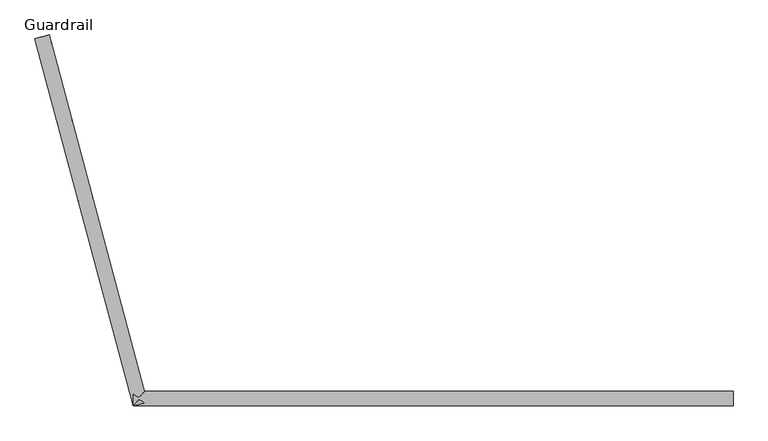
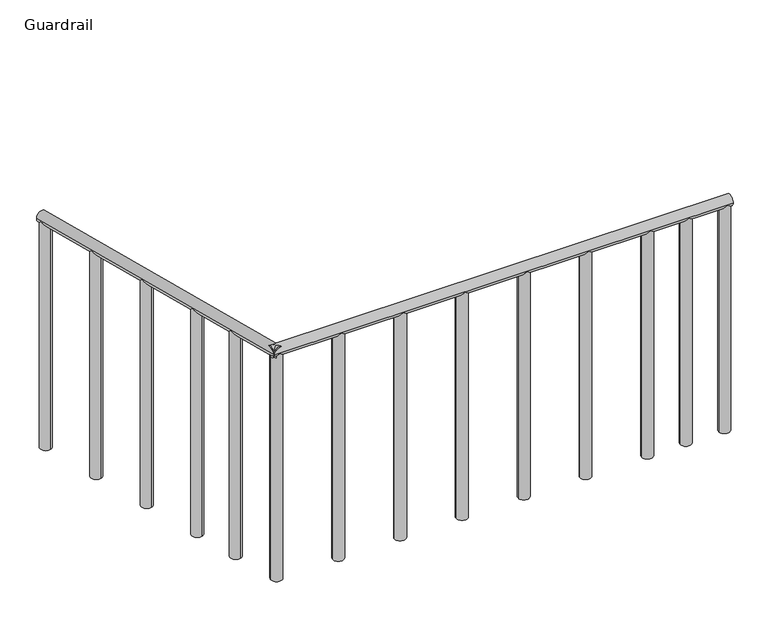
"""IFC4 building model written with IfcOpenShell, lengths in millimetres: railing geometry, Guardrail."""

from ifc_helpers import new_model, si_unit, frame, origin, place, context, project, spatial, circle_curve, ellipse_curve, source, transform, mapped, element, save
from ifc_brep_helpers import plane_surface, cylinder_surface, advanced_brep


def guardrail_720206c2(model_context):
    return source(origin(), model_context, "Body", "AdvancedBrep", [
        advanced_brep(
        [(13474.0934545, -4615.1615122, 8407.4), (13474.0934545, -4665.9615122, 8407.4), (15549.0835198, -4615.1615122, 8407.4), (15549.0835198, -4665.9615122, 8407.4)],
        [
            (0, 1, circle_curve(frame((13474.0934545, -4640.5615122, 8407.4), z_axis=(-1.0, 0.0, 0.0), x_axis=(0.0, 1.0, 0.0)), 25.4)),
            (1, 0, circle_curve(frame((13474.0934545, -4640.5615122, 8407.4), z_axis=(-1.0, 0.0, 0.0), x_axis=(0.0, 1.0, 0.0)), 25.4)),
            (2, 3, circle_curve(frame((15549.0835198, -4640.5615122, 8407.4), z_axis=(1.0, 0.0, 0.0), x_axis=(0.0, 1.0, 0.0)), 25.4)),
            (3, 2, circle_curve(frame((15549.0835198, -4640.5615122, 8407.4), z_axis=(1.0, 0.0, 0.0), x_axis=(0.0, 1.0, 0.0)), 25.4)),
            (0, 2),
            (3, 1),
        ],
        [
            plane_surface(frame((13474.0934545, -4615.1615122, 8382.0), z_axis=(-1.0, 0.0, 0.0), x_axis=(0.0, -1.0, 0.0))),
            plane_surface(frame((15549.0835198, -4615.1615122, 8382.0), z_axis=(1.0, 0.0, 0.0), x_axis=(0.0, 1.0, 0.0))),
            cylinder_surface(frame((15549.0835198, -4640.5615122, 8407.4), z_axis=(-1.0, 0.0, 0.0), x_axis=(0.0, 1.0, 0.0)), 25.4),
        ],
        [
            (0, [[1, 2]]),
            (1, [[3, 4]]),
            (2, [[-1, 5, -4, 6]]),
            (2, [[-2, -6, -3, -5]]),
        ],
    ),
        advanced_brep(
        [(15498.2835198, -4640.5615122, 7315.2), (15549.0835198, -4640.5615122, 7315.2), (15549.0835198, -4640.5615122, 8385.4029547), (15545.680565, -4653.2615122, 8385.4029547), (15501.6864745, -4653.2615122, 8385.4029547), (15498.2835198, -4640.5615122, 8385.4029547), (15501.6864745, -4627.8615122, 8385.4029547), (15545.680565, -4627.8615122, 8385.4029547)],
        [
            (0, 1, circle_curve(frame((15523.6835198, -4640.5615122, 7315.2), z_axis=(0.0, 0.0, -1.0), x_axis=(-1.0, 0.0, 0.0)), 25.4)),
            (1, 0, circle_curve(frame((15523.6835198, -4640.5615122, 7315.2), z_axis=(0.0, 0.0, -1.0), x_axis=(-1.0, 0.0, 0.0)), 25.4)),
            (2, 3, circle_curve(frame((15523.6835198, -4640.5615122, 8385.4029547), z_axis=(0.0, 0.0, -1.0), x_axis=(-1.0, 0.0, 0.0)), 25.4)),
            (3, 4, ellipse_curve(frame((15523.6835198, -4640.5615122, 8363.4059095), z_axis=(0.0, -0.8660254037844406, -0.4999999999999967), x_axis=(0.0, -0.4999999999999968, 0.8660254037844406)), 50.8, 25.4)),
            (4, 5, circle_curve(frame((15523.6835198, -4640.5615122, 8385.4029547), z_axis=(0.0, 0.0, -1.0), x_axis=(-1.0, 0.0, 0.0)), 25.4)),
            (5, 0),
            (1, 2),
            (5, 6, circle_curve(frame((15523.6835198, -4640.5615122, 8385.4029547), z_axis=(0.0, 0.0, -1.0), x_axis=(-1.0, 0.0, 0.0)), 25.4)),
            (6, 7, ellipse_curve(frame((15523.6835198, -4640.5615122, 8363.4059095), z_axis=(0.0, 0.8660254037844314, -0.5000000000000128), x_axis=(0.0, 0.5000000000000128, 0.8660254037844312)), 50.8, 25.4)),
            (7, 2, circle_curve(frame((15523.6835198, -4640.5615122, 8385.4029547), z_axis=(0.0, 0.0, -1.0), x_axis=(-1.0, 0.0, 0.0)), 25.4)),
            (4, 3),
            (7, 6),
        ],
        [
            plane_surface(frame((15498.2835198, -4640.5615122, 7315.2), z_axis=(0.0, 0.0, -1.0), x_axis=(0.0, 1.0, 0.0))),
            cylinder_surface(frame((15523.6835198, -4640.5615122, 7315.2), z_axis=(0.0, 0.0, 1.0), x_axis=(-1.0, 0.0, 0.0)), 25.4),
            plane_surface(frame((18597.0835198, -4640.5615122, 8385.4029547), z_axis=(0.0, 0.0, 1.0), x_axis=(0.0, 1.0, 0.0))),
            plane_surface(frame((18597.0835198, -4659.6115122, 8396.4014774), z_axis=(0.0, 0.8660254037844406, 0.4999999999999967), x_axis=(0.0, 0.4999999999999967, -0.8660254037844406))),
            plane_surface(frame((18597.0835198, -4621.5115122, 8396.4014774), z_axis=(0.0, -0.8660254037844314, 0.5000000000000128), x_axis=(0.0, 0.5000000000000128, 0.8660254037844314))),
        ],
        [
            (0, [[1, 2]]),
            (1, [[3, 4, 5, 6, -2, 7]]),
            (1, [[8, 9, 10, -7, -1, -6]]),
            (2, [[-5, 11, -3, -10, 12, -8]]),
            (3, [[-4, -11]]),
            (4, [[-9, -12]]),
        ],
    ),
        advanced_brep(
        [(15324.3884872, -4640.5615122, 7315.2), (15375.1884872, -4640.5615122, 7315.2), (15375.1884872, -4640.5615122, 8385.4029547), (15371.7855324, -4653.2615122, 8385.4029547), (15327.7914419, -4653.2615122, 8385.4029547), (15324.3884872, -4640.5615122, 8385.4029547), (15327.7914419, -4627.8615122, 8385.4029547), (15371.7855324, -4627.8615122, 8385.4029547)],
        [
            (0, 1, circle_curve(frame((15349.7884872, -4640.5615122, 7315.2), z_axis=(0.0, 0.0, -1.0), x_axis=(-1.0, 0.0, 0.0)), 25.4)),
            (1, 0, circle_curve(frame((15349.7884872, -4640.5615122, 7315.2), z_axis=(0.0, 0.0, -1.0), x_axis=(-1.0, 0.0, 0.0)), 25.4)),
            (2, 3, circle_curve(frame((15349.7884872, -4640.5615122, 8385.4029547), z_axis=(0.0, 0.0, -1.0), x_axis=(-1.0, 0.0, 0.0)), 25.4)),
            (3, 4, ellipse_curve(frame((15349.7884872, -4640.5615122, 8363.4059095), z_axis=(0.0, -0.8660254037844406, -0.4999999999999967), x_axis=(0.0, -0.4999999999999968, 0.8660254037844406)), 50.8, 25.4)),
            (4, 5, circle_curve(frame((15349.7884872, -4640.5615122, 8385.4029547), z_axis=(0.0, 0.0, -1.0), x_axis=(-1.0, 0.0, 0.0)), 25.4)),
            (5, 0),
            (1, 2),
            (5, 6, circle_curve(frame((15349.7884872, -4640.5615122, 8385.4029547), z_axis=(0.0, 0.0, -1.0), x_axis=(-1.0, 0.0, 0.0)), 25.4)),
            (6, 7, ellipse_curve(frame((15349.7884872, -4640.5615122, 8363.4059095), z_axis=(0.0, 0.8660254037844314, -0.5000000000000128), x_axis=(0.0, 0.5000000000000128, 0.8660254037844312)), 50.8, 25.4)),
            (7, 2, circle_curve(frame((15349.7884872, -4640.5615122, 8385.4029547), z_axis=(0.0, 0.0, -1.0), x_axis=(-1.0, 0.0, 0.0)), 25.4)),
            (4, 3),
            (7, 6),
        ],
        [
            plane_surface(frame((15324.3884872, -4640.5615122, 7315.2), z_axis=(0.0, 0.0, -1.0), x_axis=(0.0, 1.0, 0.0))),
            cylinder_surface(frame((15349.7884872, -4640.5615122, 7315.2), z_axis=(0.0, 0.0, 1.0), x_axis=(-1.0, 0.0, 0.0)), 25.4),
            plane_surface(frame((18597.0835198, -4640.5615122, 8385.4029547), z_axis=(0.0, 0.0, 1.0), x_axis=(0.0, 1.0, 0.0))),
            plane_surface(frame((18597.0835198, -4659.6115122, 8396.4014774), z_axis=(0.0, 0.8660254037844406, 0.4999999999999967), x_axis=(0.0, 0.4999999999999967, -0.8660254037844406))),
            plane_surface(frame((18597.0835198, -4621.5115122, 8396.4014774), z_axis=(0.0, -0.8660254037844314, 0.5000000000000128), x_axis=(0.0, 0.5000000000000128, 0.8660254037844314))),
        ],
        [
            (0, [[1, 2]]),
            (1, [[3, 4, 5, 6, -2, 7]]),
            (1, [[8, 9, 10, -7, -1, -6]]),
            (2, [[-5, 11, -3, -10, 12, -8]]),
            (3, [[-4, -11]]),
            (4, [[-9, -12]]),
        ],
    ),
        advanced_brep(
        [(15150.4934545, -4640.5615122, 7315.2), (15201.2934545, -4640.5615122, 7315.2), (15201.2934545, -4640.5615122, 8385.4029547), (15197.8904998, -4653.2615122, 8385.4029547), (15153.8964093, -4653.2615122, 8385.4029547), (15150.4934545, -4640.5615122, 8385.4029547), (15153.8964093, -4627.8615122, 8385.4029547), (15197.8904998, -4627.8615122, 8385.4029547)],
        [
            (0, 1, circle_curve(frame((15175.8934545, -4640.5615122, 7315.2), z_axis=(0.0, 0.0, -1.0), x_axis=(-1.0, 0.0, 0.0)), 25.4)),
            (1, 0, circle_curve(frame((15175.8934545, -4640.5615122, 7315.2), z_axis=(0.0, 0.0, -1.0), x_axis=(-1.0, 0.0, 0.0)), 25.4)),
            (2, 3, circle_curve(frame((15175.8934545, -4640.5615122, 8385.4029547), z_axis=(0.0, 0.0, -1.0), x_axis=(-1.0, 0.0, 0.0)), 25.4)),
            (3, 4, ellipse_curve(frame((15175.8934545, -4640.5615122, 8363.4059095), z_axis=(0.0, -0.8660254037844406, -0.4999999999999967), x_axis=(0.0, -0.4999999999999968, 0.8660254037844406)), 50.8, 25.4)),
            (4, 5, circle_curve(frame((15175.8934545, -4640.5615122, 8385.4029547), z_axis=(0.0, 0.0, -1.0), x_axis=(-1.0, 0.0, 0.0)), 25.4)),
            (5, 0),
            (1, 2),
            (5, 6, circle_curve(frame((15175.8934545, -4640.5615122, 8385.4029547), z_axis=(0.0, 0.0, -1.0), x_axis=(-1.0, 0.0, 0.0)), 25.4)),
            (6, 7, ellipse_curve(frame((15175.8934545, -4640.5615122, 8363.4059095), z_axis=(0.0, 0.8660254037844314, -0.5000000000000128), x_axis=(0.0, 0.5000000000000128, 0.8660254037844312)), 50.8, 25.4)),
            (7, 2, circle_curve(frame((15175.8934545, -4640.5615122, 8385.4029547), z_axis=(0.0, 0.0, -1.0), x_axis=(-1.0, 0.0, 0.0)), 25.4)),
            (4, 3),
            (7, 6),
        ],
        [
            plane_surface(frame((15150.4934545, -4640.5615122, 7315.2), z_axis=(0.0, 0.0, -1.0), x_axis=(0.0, 1.0, 0.0))),
            cylinder_surface(frame((15175.8934545, -4640.5615122, 7315.2), z_axis=(0.0, 0.0, 1.0), x_axis=(-1.0, 0.0, 0.0)), 25.4),
            plane_surface(frame((18597.0835198, -4640.5615122, 8385.4029547), z_axis=(0.0, 0.0, 1.0), x_axis=(0.0, 1.0, 0.0))),
            plane_surface(frame((18597.0835198, -4659.6115122, 8396.4014774), z_axis=(0.0, 0.8660254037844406, 0.4999999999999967), x_axis=(0.0, 0.4999999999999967, -0.8660254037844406))),
            plane_surface(frame((18597.0835198, -4621.5115122, 8396.4014774), z_axis=(0.0, -0.8660254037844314, 0.5000000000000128), x_axis=(0.0, 0.5000000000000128, 0.8660254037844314))),
        ],
        [
            (0, [[1, 2]]),
            (1, [[3, 4, 5, 6, -2, 7]]),
            (1, [[8, 9, 10, -7, -1, -6]]),
            (2, [[-5, 11, -3, -10, 12, -8]]),
            (3, [[-4, -11]]),
            (4, [[-9, -12]]),
        ],
    ),
        advanced_brep(
        [(14871.0934545, -4640.5615122, 7315.2), (14921.8934545, -4640.5615122, 7315.2), (14921.8934545, -4640.5615122, 8385.4029547), (14918.4904998, -4653.2615122, 8385.4029547), (14874.4964093, -4653.2615122, 8385.4029547), (14871.0934545, -4640.5615122, 8385.4029547), (14874.4964093, -4627.8615122, 8385.4029547), (14918.4904998, -4627.8615122, 8385.4029547)],
        [
            (0, 1, circle_curve(frame((14896.4934545, -4640.5615122, 7315.2), z_axis=(0.0, 0.0, -1.0), x_axis=(-1.0, 0.0, 0.0)), 25.4)),
            (1, 0, circle_curve(frame((14896.4934545, -4640.5615122, 7315.2), z_axis=(0.0, 0.0, -1.0), x_axis=(-1.0, 0.0, 0.0)), 25.4)),
            (2, 3, circle_curve(frame((14896.4934545, -4640.5615122, 8385.4029547), z_axis=(0.0, 0.0, -1.0), x_axis=(-1.0, 0.0, 0.0)), 25.4)),
            (3, 4, ellipse_curve(frame((14896.4934545, -4640.5615122, 8363.4059095), z_axis=(0.0, -0.8660254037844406, -0.4999999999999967), x_axis=(0.0, -0.4999999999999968, 0.8660254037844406)), 50.8, 25.4)),
            (4, 5, circle_curve(frame((14896.4934545, -4640.5615122, 8385.4029547), z_axis=(0.0, 0.0, -1.0), x_axis=(-1.0, 0.0, 0.0)), 25.4)),
            (5, 0),
            (1, 2),
            (5, 6, circle_curve(frame((14896.4934545, -4640.5615122, 8385.4029547), z_axis=(0.0, 0.0, -1.0), x_axis=(-1.0, 0.0, 0.0)), 25.4)),
            (6, 7, ellipse_curve(frame((14896.4934545, -4640.5615122, 8363.4059095), z_axis=(0.0, 0.8660254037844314, -0.5000000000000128), x_axis=(0.0, 0.5000000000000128, 0.8660254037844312)), 50.8, 25.4)),
            (7, 2, circle_curve(frame((14896.4934545, -4640.5615122, 8385.4029547), z_axis=(0.0, 0.0, -1.0), x_axis=(-1.0, 0.0, 0.0)), 25.4)),
            (4, 3),
            (7, 6),
        ],
        [
            plane_surface(frame((14871.0934545, -4640.5615122, 7315.2), z_axis=(0.0, 0.0, -1.0), x_axis=(0.0, 1.0, 0.0))),
            cylinder_surface(frame((14896.4934545, -4640.5615122, 7315.2), z_axis=(0.0, 0.0, 1.0), x_axis=(-1.0, 0.0, 0.0)), 25.4),
            plane_surface(frame((18597.0835198, -4640.5615122, 8385.4029547), z_axis=(0.0, 0.0, 1.0), x_axis=(0.0, 1.0, 0.0))),
            plane_surface(frame((18597.0835198, -4659.6115122, 8396.4014774), z_axis=(0.0, 0.8660254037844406, 0.4999999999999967), x_axis=(0.0, 0.4999999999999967, -0.8660254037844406))),
            plane_surface(frame((18597.0835198, -4621.5115122, 8396.4014774), z_axis=(0.0, -0.8660254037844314, 0.5000000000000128), x_axis=(0.0, 0.5000000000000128, 0.8660254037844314))),
        ],
        [
            (0, [[1, 2]]),
            (1, [[3, 4, 5, 6, -2, 7]]),
            (1, [[8, 9, 10, -7, -1, -6]]),
            (2, [[-5, 11, -3, -10, 12, -8]]),
            (3, [[-4, -11]]),
            (4, [[-9, -12]]),
        ],
    ),
        advanced_brep(
        [(14591.6934545, -4640.5615122, 7315.2), (14642.4934545, -4640.5615122, 7315.2), (14642.4934545, -4640.5615122, 8385.4029547), (14639.0904998, -4653.2615122, 8385.4029547), (14595.0964093, -4653.2615122, 8385.4029547), (14591.6934545, -4640.5615122, 8385.4029547), (14595.0964093, -4627.8615122, 8385.4029547), (14639.0904998, -4627.8615122, 8385.4029547)],
        [
            (0, 1, circle_curve(frame((14617.0934545, -4640.5615122, 7315.2), z_axis=(0.0, 0.0, -1.0), x_axis=(-1.0, 0.0, 0.0)), 25.4)),
            (1, 0, circle_curve(frame((14617.0934545, -4640.5615122, 7315.2), z_axis=(0.0, 0.0, -1.0), x_axis=(-1.0, 0.0, 0.0)), 25.4)),
            (2, 3, circle_curve(frame((14617.0934545, -4640.5615122, 8385.4029547), z_axis=(0.0, 0.0, -1.0), x_axis=(-1.0, 0.0, 0.0)), 25.4)),
            (3, 4, ellipse_curve(frame((14617.0934545, -4640.5615122, 8363.4059095), z_axis=(0.0, -0.8660254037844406, -0.4999999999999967), x_axis=(0.0, -0.4999999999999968, 0.8660254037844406)), 50.8, 25.4)),
            (4, 5, circle_curve(frame((14617.0934545, -4640.5615122, 8385.4029547), z_axis=(0.0, 0.0, -1.0), x_axis=(-1.0, 0.0, 0.0)), 25.4)),
            (5, 0),
            (1, 2),
            (5, 6, circle_curve(frame((14617.0934545, -4640.5615122, 8385.4029547), z_axis=(0.0, 0.0, -1.0), x_axis=(-1.0, 0.0, 0.0)), 25.4)),
            (6, 7, ellipse_curve(frame((14617.0934545, -4640.5615122, 8363.4059095), z_axis=(0.0, 0.8660254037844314, -0.5000000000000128), x_axis=(0.0, 0.5000000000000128, 0.8660254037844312)), 50.8, 25.4)),
            (7, 2, circle_curve(frame((14617.0934545, -4640.5615122, 8385.4029547), z_axis=(0.0, 0.0, -1.0), x_axis=(-1.0, 0.0, 0.0)), 25.4)),
            (4, 3),
            (7, 6),
        ],
        [
            plane_surface(frame((14591.6934545, -4640.5615122, 7315.2), z_axis=(0.0, 0.0, -1.0), x_axis=(0.0, 1.0, 0.0))),
            cylinder_surface(frame((14617.0934545, -4640.5615122, 7315.2), z_axis=(0.0, 0.0, 1.0), x_axis=(-1.0, 0.0, 0.0)), 25.4),
            plane_surface(frame((18597.0835198, -4640.5615122, 8385.4029547), z_axis=(0.0, 0.0, 1.0), x_axis=(0.0, 1.0, 0.0))),
            plane_surface(frame((18597.0835198, -4659.6115122, 8396.4014774), z_axis=(0.0, 0.8660254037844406, 0.4999999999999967), x_axis=(0.0, 0.4999999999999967, -0.8660254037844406))),
            plane_surface(frame((18597.0835198, -4621.5115122, 8396.4014774), z_axis=(0.0, -0.8660254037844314, 0.5000000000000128), x_axis=(0.0, 0.5000000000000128, 0.8660254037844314))),
        ],
        [
            (0, [[1, 2]]),
            (1, [[3, 4, 5, 6, -2, 7]]),
            (1, [[8, 9, 10, -7, -1, -6]]),
            (2, [[-5, 11, -3, -10, 12, -8]]),
            (3, [[-4, -11]]),
            (4, [[-9, -12]]),
        ],
    ),
        advanced_brep(
        [(14312.2934545, -4640.5615122, 7315.2), (14363.0934545, -4640.5615122, 7315.2), (14363.0934545, -4640.5615122, 8385.4029547), (14359.6904998, -4653.2615122, 8385.4029547), (14315.6964093, -4653.2615122, 8385.4029547), (14312.2934545, -4640.5615122, 8385.4029547), (14315.6964093, -4627.8615122, 8385.4029547), (14359.6904998, -4627.8615122, 8385.4029547)],
        [
            (0, 1, circle_curve(frame((14337.6934545, -4640.5615122, 7315.2), z_axis=(0.0, 0.0, -1.0), x_axis=(-1.0, 0.0, 0.0)), 25.4)),
            (1, 0, circle_curve(frame((14337.6934545, -4640.5615122, 7315.2), z_axis=(0.0, 0.0, -1.0), x_axis=(-1.0, 0.0, 0.0)), 25.4)),
            (2, 3, circle_curve(frame((14337.6934545, -4640.5615122, 8385.4029547), z_axis=(0.0, 0.0, -1.0), x_axis=(-1.0, 0.0, 0.0)), 25.4)),
            (3, 4, ellipse_curve(frame((14337.6934545, -4640.5615122, 8363.4059095), z_axis=(0.0, -0.8660254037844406, -0.4999999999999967), x_axis=(0.0, -0.4999999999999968, 0.8660254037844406)), 50.8, 25.4)),
            (4, 5, circle_curve(frame((14337.6934545, -4640.5615122, 8385.4029547), z_axis=(0.0, 0.0, -1.0), x_axis=(-1.0, 0.0, 0.0)), 25.4)),
            (5, 0),
            (1, 2),
            (5, 6, circle_curve(frame((14337.6934545, -4640.5615122, 8385.4029547), z_axis=(0.0, 0.0, -1.0), x_axis=(-1.0, 0.0, 0.0)), 25.4)),
            (6, 7, ellipse_curve(frame((14337.6934545, -4640.5615122, 8363.4059095), z_axis=(0.0, 0.8660254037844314, -0.5000000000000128), x_axis=(0.0, 0.5000000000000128, 0.8660254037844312)), 50.8, 25.4)),
            (7, 2, circle_curve(frame((14337.6934545, -4640.5615122, 8385.4029547), z_axis=(0.0, 0.0, -1.0), x_axis=(-1.0, 0.0, 0.0)), 25.4)),
            (4, 3),
            (7, 6),
        ],
        [
            plane_surface(frame((14312.2934545, -4640.5615122, 7315.2), z_axis=(0.0, 0.0, -1.0), x_axis=(0.0, 1.0, 0.0))),
            cylinder_surface(frame((14337.6934545, -4640.5615122, 7315.2), z_axis=(0.0, 0.0, 1.0), x_axis=(-1.0, 0.0, 0.0)), 25.4),
            plane_surface(frame((18597.0835198, -4640.5615122, 8385.4029547), z_axis=(0.0, 0.0, 1.0), x_axis=(0.0, 1.0, 0.0))),
            plane_surface(frame((18597.0835198, -4659.6115122, 8396.4014774), z_axis=(0.0, 0.8660254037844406, 0.4999999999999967), x_axis=(0.0, 0.4999999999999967, -0.8660254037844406))),
            plane_surface(frame((18597.0835198, -4621.5115122, 8396.4014774), z_axis=(0.0, -0.8660254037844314, 0.5000000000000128), x_axis=(0.0, 0.5000000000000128, 0.8660254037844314))),
        ],
        [
            (0, [[1, 2]]),
            (1, [[3, 4, 5, 6, -2, 7]]),
            (1, [[8, 9, 10, -7, -1, -6]]),
            (2, [[-5, 11, -3, -10, 12, -8]]),
            (3, [[-4, -11]]),
            (4, [[-9, -12]]),
        ],
    ),
        advanced_brep(
        [(14032.8934545, -4640.5615122, 7315.2), (14083.6934545, -4640.5615122, 7315.2), (14083.6934545, -4640.5615122, 8385.4029547), (14080.2904998, -4653.2615122, 8385.4029547), (14036.2964093, -4653.2615122, 8385.4029547), (14032.8934545, -4640.5615122, 8385.4029547), (14036.2964093, -4627.8615122, 8385.4029547), (14080.2904998, -4627.8615122, 8385.4029547)],
        [
            (0, 1, circle_curve(frame((14058.2934545, -4640.5615122, 7315.2), z_axis=(0.0, 0.0, -1.0), x_axis=(-1.0, 0.0, 0.0)), 25.4)),
            (1, 0, circle_curve(frame((14058.2934545, -4640.5615122, 7315.2), z_axis=(0.0, 0.0, -1.0), x_axis=(-1.0, 0.0, 0.0)), 25.4)),
            (2, 3, circle_curve(frame((14058.2934545, -4640.5615122, 8385.4029547), z_axis=(0.0, 0.0, -1.0), x_axis=(-1.0, 0.0, 0.0)), 25.4)),
            (3, 4, ellipse_curve(frame((14058.2934545, -4640.5615122, 8363.4059095), z_axis=(0.0, -0.8660254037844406, -0.4999999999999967), x_axis=(0.0, -0.4999999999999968, 0.8660254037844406)), 50.8, 25.4)),
            (4, 5, circle_curve(frame((14058.2934545, -4640.5615122, 8385.4029547), z_axis=(0.0, 0.0, -1.0), x_axis=(-1.0, 0.0, 0.0)), 25.4)),
            (5, 0),
            (1, 2),
            (5, 6, circle_curve(frame((14058.2934545, -4640.5615122, 8385.4029547), z_axis=(0.0, 0.0, -1.0), x_axis=(-1.0, 0.0, 0.0)), 25.4)),
            (6, 7, ellipse_curve(frame((14058.2934545, -4640.5615122, 8363.4059095), z_axis=(0.0, 0.8660254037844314, -0.5000000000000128), x_axis=(0.0, 0.5000000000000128, 0.8660254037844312)), 50.8, 25.4)),
            (7, 2, circle_curve(frame((14058.2934545, -4640.5615122, 8385.4029547), z_axis=(0.0, 0.0, -1.0), x_axis=(-1.0, 0.0, 0.0)), 25.4)),
            (4, 3),
            (7, 6),
        ],
        [
            plane_surface(frame((14032.8934545, -4640.5615122, 7315.2), z_axis=(0.0, 0.0, -1.0), x_axis=(0.0, 1.0, 0.0))),
            cylinder_surface(frame((14058.2934545, -4640.5615122, 7315.2), z_axis=(0.0, 0.0, 1.0), x_axis=(-1.0, 0.0, 0.0)), 25.4),
            plane_surface(frame((18597.0835198, -4640.5615122, 8385.4029547), z_axis=(0.0, 0.0, 1.0), x_axis=(0.0, 1.0, 0.0))),
            plane_surface(frame((18597.0835198, -4659.6115122, 8396.4014774), z_axis=(0.0, 0.8660254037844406, 0.4999999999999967), x_axis=(0.0, 0.4999999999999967, -0.8660254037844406))),
            plane_surface(frame((18597.0835198, -4621.5115122, 8396.4014774), z_axis=(0.0, -0.8660254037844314, 0.5000000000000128), x_axis=(0.0, 0.5000000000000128, 0.8660254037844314))),
        ],
        [
            (0, [[1, 2]]),
            (1, [[3, 4, 5, 6, -2, 7]]),
            (1, [[8, 9, 10, -7, -1, -6]]),
            (2, [[-5, 11, -3, -10, 12, -8]]),
            (3, [[-4, -11]]),
            (4, [[-9, -12]]),
        ],
    ),
        advanced_brep(
        [(13753.4934545, -4640.5615122, 7315.2), (13804.2934545, -4640.5615122, 7315.2), (13804.2934545, -4640.5615122, 8385.4029547), (13800.8904998, -4653.2615122, 8385.4029547), (13756.8964093, -4653.2615122, 8385.4029547), (13753.4934545, -4640.5615122, 8385.4029547), (13756.8964093, -4627.8615122, 8385.4029547), (13800.8904998, -4627.8615122, 8385.4029547)],
        [
            (0, 1, circle_curve(frame((13778.8934545, -4640.5615122, 7315.2), z_axis=(0.0, 0.0, -1.0), x_axis=(-1.0, 0.0, 0.0)), 25.4)),
            (1, 0, circle_curve(frame((13778.8934545, -4640.5615122, 7315.2), z_axis=(0.0, 0.0, -1.0), x_axis=(-1.0, 0.0, 0.0)), 25.4)),
            (2, 3, circle_curve(frame((13778.8934545, -4640.5615122, 8385.4029547), z_axis=(0.0, 0.0, -1.0), x_axis=(-1.0, 0.0, 0.0)), 25.4)),
            (3, 4, ellipse_curve(frame((13778.8934545, -4640.5615122, 8363.4059095), z_axis=(0.0, -0.8660254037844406, -0.4999999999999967), x_axis=(0.0, -0.4999999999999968, 0.8660254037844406)), 50.8, 25.4)),
            (4, 5, circle_curve(frame((13778.8934545, -4640.5615122, 8385.4029547), z_axis=(0.0, 0.0, -1.0), x_axis=(-1.0, 0.0, 0.0)), 25.4)),
            (5, 0),
            (1, 2),
            (5, 6, circle_curve(frame((13778.8934545, -4640.5615122, 8385.4029547), z_axis=(0.0, 0.0, -1.0), x_axis=(-1.0, 0.0, 0.0)), 25.4)),
            (6, 7, ellipse_curve(frame((13778.8934545, -4640.5615122, 8363.4059095), z_axis=(0.0, 0.8660254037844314, -0.5000000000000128), x_axis=(0.0, 0.5000000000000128, 0.8660254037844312)), 50.8, 25.4)),
            (7, 2, circle_curve(frame((13778.8934545, -4640.5615122, 8385.4029547), z_axis=(0.0, 0.0, -1.0), x_axis=(-1.0, 0.0, 0.0)), 25.4)),
            (4, 3),
            (7, 6),
        ],
        [
            plane_surface(frame((13753.4934545, -4640.5615122, 7315.2), z_axis=(0.0, 0.0, -1.0), x_axis=(0.0, 1.0, 0.0))),
            cylinder_surface(frame((13778.8934545, -4640.5615122, 7315.2), z_axis=(0.0, 0.0, 1.0), x_axis=(-1.0, 0.0, 0.0)), 25.4),
            plane_surface(frame((18597.0835198, -4640.5615122, 8385.4029547), z_axis=(0.0, 0.0, 1.0), x_axis=(0.0, 1.0, 0.0))),
            plane_surface(frame((18597.0835198, -4659.6115122, 8396.4014774), z_axis=(0.0, 0.8660254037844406, 0.4999999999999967), x_axis=(0.0, 0.4999999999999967, -0.8660254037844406))),
            plane_surface(frame((18597.0835198, -4621.5115122, 8396.4014774), z_axis=(0.0, -0.8660254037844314, 0.5000000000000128), x_axis=(0.0, 0.5000000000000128, 0.8660254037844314))),
        ],
        [
            (0, [[1, 2]]),
            (1, [[3, 4, 5, 6, -2, 7]]),
            (1, [[8, 9, 10, -7, -1, -6]]),
            (2, [[-5, 11, -3, -10, 12, -8]]),
            (3, [[-4, -11]]),
            (4, [[-9, -12]]),
        ],
    ),
        advanced_brep(
        [(13474.0934545, -4640.5615122, 7315.2), (13524.8934545, -4640.5615122, 7315.2), (13524.8934545, -4640.5615122, 8385.4029547), (13521.4904998, -4653.2615122, 8385.4029547), (13477.4964093, -4653.2615122, 8385.4029547), (13474.0934545, -4640.5615122, 8385.4029547), (13477.4964093, -4627.8615122, 8385.4029547), (13521.4904998, -4627.8615122, 8385.4029547)],
        [
            (0, 1, circle_curve(frame((13499.4934545, -4640.5615122, 7315.2), z_axis=(0.0, 0.0, -1.0), x_axis=(-1.0, 0.0, 0.0)), 25.4)),
            (1, 0, circle_curve(frame((13499.4934545, -4640.5615122, 7315.2), z_axis=(0.0, 0.0, -1.0), x_axis=(-1.0, 0.0, 0.0)), 25.4)),
            (2, 3, circle_curve(frame((13499.4934545, -4640.5615122, 8385.4029547), z_axis=(0.0, 0.0, -1.0), x_axis=(-1.0, 0.0, 0.0)), 25.4)),
            (3, 4, ellipse_curve(frame((13499.4934545, -4640.5615122, 8363.4059095), z_axis=(0.0, -0.8660254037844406, -0.4999999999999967), x_axis=(0.0, -0.4999999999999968, 0.8660254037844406)), 50.8, 25.4)),
            (4, 5, circle_curve(frame((13499.4934545, -4640.5615122, 8385.4029547), z_axis=(0.0, 0.0, -1.0), x_axis=(-1.0, 0.0, 0.0)), 25.4)),
            (5, 0),
            (1, 2),
            (5, 6, circle_curve(frame((13499.4934545, -4640.5615122, 8385.4029547), z_axis=(0.0, 0.0, -1.0), x_axis=(-1.0, 0.0, 0.0)), 25.4)),
            (6, 7, ellipse_curve(frame((13499.4934545, -4640.5615122, 8363.4059095), z_axis=(0.0, 0.8660254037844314, -0.5000000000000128), x_axis=(0.0, 0.5000000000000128, 0.8660254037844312)), 50.8, 25.4)),
            (7, 2, circle_curve(frame((13499.4934545, -4640.5615122, 8385.4029547), z_axis=(0.0, 0.0, -1.0), x_axis=(-1.0, 0.0, 0.0)), 25.4)),
            (4, 3),
            (7, 6),
        ],
        [
            plane_surface(frame((13474.0934545, -4640.5615122, 7315.2), z_axis=(0.0, 0.0, -1.0), x_axis=(0.0, 1.0, 0.0))),
            cylinder_surface(frame((13499.4934545, -4640.5615122, 7315.2), z_axis=(0.0, 0.0, 1.0), x_axis=(-1.0, 0.0, 0.0)), 25.4),
            plane_surface(frame((18597.0835198, -4640.5615122, 8385.4029547), z_axis=(0.0, 0.0, 1.0), x_axis=(0.0, 1.0, 0.0))),
            plane_surface(frame((18597.0835198, -4659.6115122, 8396.4014774), z_axis=(0.0, 0.8660254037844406, 0.4999999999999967), x_axis=(0.0, 0.4999999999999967, -0.8660254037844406))),
            plane_surface(frame((18597.0835198, -4621.5115122, 8396.4014774), z_axis=(0.0, -0.8660254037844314, 0.5000000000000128), x_axis=(0.0, 0.5000000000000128, 0.8660254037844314))),
        ],
        [
            (0, [[1, 2]]),
            (1, [[3, 4, 5, 6, -2, 7]]),
            (1, [[8, 9, 10, -7, -1, -6]]),
            (2, [[-5, 11, -3, -10, 12, -8]]),
            (3, [[-4, -11]]),
            (4, [[-9, -12]]),
        ],
    ),
        advanced_brep(
        [(13182.8093103, -3382.5981584, 8407.4), (13133.7402783, -3395.7461659, 8407.4), (13523.1624865, -4652.8135047, 8407.4), (13474.0934545, -4665.9615122, 8407.4)],
        [
            (0, 1, circle_curve(frame((13158.2747943, -3389.1721622, 8407.4), z_axis=(-0.25881904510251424, 0.9659258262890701, 0.0), x_axis=(0.9659258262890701, 0.25881904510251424, 0.0)), 25.4)),
            (1, 0, circle_curve(frame((13158.2747943, -3389.1721622, 8407.4), z_axis=(-0.25881904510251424, 0.9659258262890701, 0.0), x_axis=(0.9659258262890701, 0.25881904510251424, 0.0)), 25.4)),
            (2, 3, circle_curve(frame((13498.6279705, -4659.3875084, 8407.4), z_axis=(0.25881904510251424, -0.9659258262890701, 0.0), x_axis=(0.9659258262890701, 0.25881904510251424, 0.0)), 25.4)),
            (3, 2, circle_curve(frame((13498.6279705, -4659.3875084, 8407.4), z_axis=(0.25881904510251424, -0.9659258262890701, 0.0), x_axis=(0.9659258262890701, 0.25881904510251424, 0.0)), 25.4)),
            (0, 2),
            (3, 1),
        ],
        [
            plane_surface(frame((13182.8093103, -3382.5981584, 8382.0), z_axis=(-0.2588190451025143, 0.9659258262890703, 0.0), x_axis=(0.9659258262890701, 0.25881904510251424, 0.0))),
            plane_surface(frame((13523.1624865, -4652.8135047, 8382.0), z_axis=(0.2588190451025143, -0.9659258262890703, 0.0), x_axis=(0.9659258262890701, 0.25881904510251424, 0.0))),
            cylinder_surface(frame((13498.6279705, -4659.3875084, 8407.4), z_axis=(-0.25881904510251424, 0.9659258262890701, 0.0), x_axis=(0.9659258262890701, 0.25881904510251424, 0.0)), 25.4),
        ],
        [
            (0, [[1, 2]]),
            (1, [[3, 4]]),
            (2, [[-1, 5, -4, 6]]),
            (2, [[-2, -6, -3, -5]]),
        ],
    ),
        advanced_brep(
        [(13430.3484405, -4404.5648331, 7315.2), (13443.496448, -4453.6338651, 7315.2), (13443.496448, -4453.6338651, 8385.4029547), (13430.3484405, -4453.6338651, 8385.4029547), (13418.961932, -4411.1388369, 8385.4029547), (13430.3484405, -4404.5648331, 8385.4029547), (13443.496448, -4404.5648331, 8385.4029547), (13454.8829565, -4447.0598614, 8385.4029547)],
        [
            (0, 1, circle_curve(frame((13436.9224442, -4429.0993491, 7315.2), z_axis=(0.0, 0.0, -1.0), x_axis=(-0.25881904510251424, 0.9659258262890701, 0.0)), 25.4)),
            (1, 0, circle_curve(frame((13436.9224442, -4429.0993491, 7315.2), z_axis=(0.0, 0.0, -1.0), x_axis=(-0.25881904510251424, 0.9659258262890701, 0.0)), 25.4)),
            (2, 3, circle_curve(frame((13436.9224442, -4429.0993491, 8385.4029547), z_axis=(0.0, 0.0, -1.0), x_axis=(-0.25881904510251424, 0.9659258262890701, 0.0)), 25.4)),
            (3, 4, ellipse_curve(frame((13436.9224442, -4429.0993491, 8363.4059095), z_axis=(-0.8365163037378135, -0.2241438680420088, -0.49999999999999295), x_axis=(-0.4829629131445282, -0.1294095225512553, 0.8660254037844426)), 50.8, 25.4)),
            (4, 5, circle_curve(frame((13436.9224442, -4429.0993491, 8385.4029547), z_axis=(0.0, 0.0, -1.0), x_axis=(-0.25881904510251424, 0.9659258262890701, 0.0)), 25.4)),
            (5, 0),
            (1, 2),
            (5, 6, circle_curve(frame((13436.9224442, -4429.0993491, 8385.4029547), z_axis=(0.0, 0.0, -1.0), x_axis=(-0.25881904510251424, 0.9659258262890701, 0.0)), 25.4)),
            (6, 7, ellipse_curve(frame((13436.9224442, -4429.0993491, 8363.4059095), z_axis=(0.8365163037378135, 0.2241438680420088, -0.49999999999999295), x_axis=(0.4829629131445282, 0.1294095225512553, 0.8660254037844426)), 50.8, 25.4)),
            (7, 2, circle_curve(frame((13436.9224442, -4429.0993491, 8385.4029547), z_axis=(0.0, 0.0, -1.0), x_axis=(-0.25881904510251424, 0.9659258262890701, 0.0)), 25.4)),
            (4, 3),
            (7, 6),
        ],
        [
            plane_surface(frame((13430.3484405, -4404.5648331, 7315.2), z_axis=(0.0, 0.0, -1.0000000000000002), x_axis=(0.9659258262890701, 0.25881904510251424, 0.0))),
            cylinder_surface(frame((13436.9224442, -4429.0993491, 7315.2), z_axis=(0.0, 0.0, 1.0000000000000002), x_axis=(-0.25881904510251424, 0.9659258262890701, 0.0)), 25.4),
            plane_surface(frame((14287.50842, -7603.529427, 8385.4029547), z_axis=(0.0, 0.0, 1.0000000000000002), x_axis=(0.9659258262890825, 0.25881904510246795, 0.0))),
            plane_surface(frame((14269.107533, -7608.4599298, 8396.4014774), z_axis=(0.8365163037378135, 0.2241438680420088, 0.49999999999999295), x_axis=(0.4829629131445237, 0.12940952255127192, -0.8660254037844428))),
            plane_surface(frame((14305.909307, -7598.5989241, 8396.4014774), z_axis=(-0.8365163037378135, -0.2241438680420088, 0.49999999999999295), x_axis=(0.4829629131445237, 0.12940952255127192, 0.8660254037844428))),
        ],
        [
            (0, [[1, 2]]),
            (1, [[3, 4, 5, 6, -2, 7]]),
            (1, [[8, 9, 10, -7, -1, -6]]),
            (2, [[-5, 11, -3, -10, 12, -8]]),
            (3, [[-4, -11]]),
            (4, [[-9, -12]]),
        ],
    ),
        advanced_brep(
        [(13375.2169179, -4198.8111898, 7315.2), (13388.3649254, -4247.8802218, 7315.2), (13388.3649254, -4247.8802218, 8385.4029547), (13375.2169179, -4247.8802218, 8385.4029547), (13363.8304094, -4205.3851935, 8385.4029547), (13375.2169179, -4198.8111898, 8385.4029547), (13388.3649254, -4198.8111898, 8385.4029547), (13399.7514339, -4241.306218, 8385.4029547)],
        [
            (0, 1, circle_curve(frame((13381.7909216, -4223.3457058, 7315.2), z_axis=(0.0, 0.0, -1.0), x_axis=(-0.25881904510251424, 0.9659258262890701, 0.0)), 25.4)),
            (1, 0, circle_curve(frame((13381.7909216, -4223.3457058, 7315.2), z_axis=(0.0, 0.0, -1.0), x_axis=(-0.25881904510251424, 0.9659258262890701, 0.0)), 25.4)),
            (2, 3, circle_curve(frame((13381.7909216, -4223.3457058, 8385.4029547), z_axis=(0.0, 0.0, -1.0), x_axis=(-0.25881904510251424, 0.9659258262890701, 0.0)), 25.4)),
            (3, 4, ellipse_curve(frame((13381.7909216, -4223.3457058, 8363.4059095), z_axis=(-0.8365163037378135, -0.2241438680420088, -0.49999999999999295), x_axis=(-0.4829629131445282, -0.1294095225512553, 0.8660254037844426)), 50.8, 25.4)),
            (4, 5, circle_curve(frame((13381.7909216, -4223.3457058, 8385.4029547), z_axis=(0.0, 0.0, -1.0), x_axis=(-0.25881904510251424, 0.9659258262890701, 0.0)), 25.4)),
            (5, 0),
            (1, 2),
            (5, 6, circle_curve(frame((13381.7909216, -4223.3457058, 8385.4029547), z_axis=(0.0, 0.0, -1.0), x_axis=(-0.25881904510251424, 0.9659258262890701, 0.0)), 25.4)),
            (6, 7, ellipse_curve(frame((13381.7909216, -4223.3457058, 8363.4059095), z_axis=(0.8365163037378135, 0.2241438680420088, -0.49999999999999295), x_axis=(0.4829629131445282, 0.1294095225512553, 0.8660254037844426)), 50.8, 25.4)),
            (7, 2, circle_curve(frame((13381.7909216, -4223.3457058, 8385.4029547), z_axis=(0.0, 0.0, -1.0), x_axis=(-0.25881904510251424, 0.9659258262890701, 0.0)), 25.4)),
            (6, 7),
            (3, 4),
        ],
        [
            plane_surface(frame((13375.2169179, -4198.8111898, 7315.2), z_axis=(0.0, 0.0, -1.0000000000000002), x_axis=(0.9659258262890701, 0.25881904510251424, 0.0))),
            cylinder_surface(frame((13381.7909216, -4223.3457058, 7315.2), z_axis=(0.0, 0.0, 1.0000000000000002), x_axis=(-0.25881904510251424, 0.9659258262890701, 0.0)), 25.4),
            plane_surface(frame((14305.909307, -7598.5989241, 8396.4014774), z_axis=(-0.8365163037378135, -0.2241438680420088, 0.49999999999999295), x_axis=(0.4829629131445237, 0.12940952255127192, 0.8660254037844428))),
            plane_surface(frame((14269.107533, -7608.4599298, 8396.4014774), z_axis=(0.8365163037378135, 0.2241438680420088, 0.49999999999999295), x_axis=(0.4829629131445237, 0.12940952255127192, -0.8660254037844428))),
            plane_surface(frame((14287.50842, -7603.529427, 8385.4029547), z_axis=(0.0, 0.0, 1.0000000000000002), x_axis=(0.9659258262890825, 0.25881904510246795, 0.0))),
        ],
        [
            (0, [[1, 2]]),
            (1, [[3, 4, 5, 6, -2, 7]]),
            (1, [[8, 9, 10, -7, -1, -6]]),
            (2, [[-9, 11]]),
            (3, [[-4, 12]]),
            (4, [[-5, -12, -3, -10, -11, -8]]),
        ],
    ),
        advanced_brep(
        [(13302.9028767, -3928.9315139, 7315.2), (13316.0508842, -3978.0005459, 7315.2), (13316.0508842, -3978.0005459, 8385.4029547), (13302.9028767, -3978.0005459, 8385.4029547), (13291.5163682, -3935.5055177, 8385.4029547), (13302.9028767, -3928.9315139, 8385.4029547), (13316.0508842, -3928.9315139, 8385.4029547), (13327.4373927, -3971.4265422, 8385.4029547)],
        [
            (0, 1, circle_curve(frame((13309.4768804, -3953.4660299, 7315.2), z_axis=(0.0, 0.0, -1.0), x_axis=(-0.25881904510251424, 0.9659258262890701, 0.0)), 25.4)),
            (1, 0, circle_curve(frame((13309.4768804, -3953.4660299, 7315.2), z_axis=(0.0, 0.0, -1.0), x_axis=(-0.25881904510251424, 0.9659258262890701, 0.0)), 25.4)),
            (2, 3, circle_curve(frame((13309.4768804, -3953.4660299, 8385.4029547), z_axis=(0.0, 0.0, -1.0), x_axis=(-0.25881904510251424, 0.9659258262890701, 0.0)), 25.4)),
            (3, 4, ellipse_curve(frame((13309.4768804, -3953.4660299, 8363.4059095), z_axis=(-0.8365163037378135, -0.2241438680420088, -0.49999999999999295), x_axis=(-0.4829629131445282, -0.1294095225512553, 0.8660254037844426)), 50.8, 25.4)),
            (4, 5, circle_curve(frame((13309.4768804, -3953.4660299, 8385.4029547), z_axis=(0.0, 0.0, -1.0), x_axis=(-0.25881904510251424, 0.9659258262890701, 0.0)), 25.4)),
            (5, 0),
            (1, 2),
            (5, 6, circle_curve(frame((13309.4768804, -3953.4660299, 8385.4029547), z_axis=(0.0, 0.0, -1.0), x_axis=(-0.25881904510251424, 0.9659258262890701, 0.0)), 25.4)),
            (6, 7, ellipse_curve(frame((13309.4768804, -3953.4660299, 8363.4059095), z_axis=(0.8365163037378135, 0.2241438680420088, -0.49999999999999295), x_axis=(0.4829629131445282, 0.1294095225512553, 0.8660254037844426)), 50.8, 25.4)),
            (7, 2, circle_curve(frame((13309.4768804, -3953.4660299, 8385.4029547), z_axis=(0.0, 0.0, -1.0), x_axis=(-0.25881904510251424, 0.9659258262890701, 0.0)), 25.4)),
            (6, 7),
            (3, 4),
        ],
        [
            plane_surface(frame((13302.9028767, -3928.9315139, 7315.2), z_axis=(0.0, 0.0, -1.0000000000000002), x_axis=(0.9659258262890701, 0.25881904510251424, 0.0))),
            cylinder_surface(frame((13309.4768804, -3953.4660299, 7315.2), z_axis=(0.0, 0.0, 1.0000000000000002), x_axis=(-0.25881904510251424, 0.9659258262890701, 0.0)), 25.4),
            plane_surface(frame((14305.909307, -7598.5989241, 8396.4014774), z_axis=(-0.8365163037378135, -0.2241438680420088, 0.49999999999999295), x_axis=(0.4829629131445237, 0.12940952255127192, 0.8660254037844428))),
            plane_surface(frame((14269.107533, -7608.4599298, 8396.4014774), z_axis=(0.8365163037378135, 0.2241438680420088, 0.49999999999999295), x_axis=(0.4829629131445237, 0.12940952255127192, -0.8660254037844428))),
            plane_surface(frame((14287.50842, -7603.529427, 8385.4029547), z_axis=(0.0, 0.0, 1.0000000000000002), x_axis=(0.9659258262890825, 0.25881904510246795, 0.0))),
        ],
        [
            (0, [[1, 2]]),
            (1, [[3, 4, 5, 6, -2, 7]]),
            (1, [[8, 9, 10, -7, -1, -6]]),
            (2, [[-9, 11]]),
            (3, [[-4, 12]]),
            (4, [[-5, -12, -3, -10, -11, -8]]),
        ],
    ),
        advanced_brep(
        [(13230.5888355, -3659.0518381, 7315.2), (13243.736843, -3708.12087, 7315.2), (13243.736843, -3708.12087, 8385.4029547), (13230.5888355, -3708.12087, 8385.4029547), (13219.202327, -3665.6258418, 8385.4029547), (13230.5888355, -3659.0518381, 8385.4029547), (13243.736843, -3659.0518381, 8385.4029547), (13255.1233515, -3701.5468663, 8385.4029547)],
        [
            (0, 1, circle_curve(frame((13237.1628392, -3683.586354, 7315.2), z_axis=(0.0, 0.0, -1.0), x_axis=(-0.25881904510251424, 0.9659258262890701, 0.0)), 25.4)),
            (1, 0, circle_curve(frame((13237.1628392, -3683.586354, 7315.2), z_axis=(0.0, 0.0, -1.0), x_axis=(-0.25881904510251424, 0.9659258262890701, 0.0)), 25.4)),
            (2, 3, circle_curve(frame((13237.1628392, -3683.586354, 8385.4029547), z_axis=(0.0, 0.0, -1.0), x_axis=(-0.25881904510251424, 0.9659258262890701, 0.0)), 25.4)),
            (3, 4, ellipse_curve(frame((13237.1628392, -3683.586354, 8363.4059095), z_axis=(-0.8365163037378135, -0.2241438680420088, -0.49999999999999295), x_axis=(-0.4829629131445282, -0.1294095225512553, 0.8660254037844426)), 50.8, 25.4)),
            (4, 5, circle_curve(frame((13237.1628392, -3683.586354, 8385.4029547), z_axis=(0.0, 0.0, -1.0), x_axis=(-0.25881904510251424, 0.9659258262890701, 0.0)), 25.4)),
            (5, 0),
            (1, 2),
            (5, 6, circle_curve(frame((13237.1628392, -3683.586354, 8385.4029547), z_axis=(0.0, 0.0, -1.0), x_axis=(-0.25881904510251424, 0.9659258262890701, 0.0)), 25.4)),
            (6, 7, ellipse_curve(frame((13237.1628392, -3683.586354, 8363.4059095), z_axis=(0.8365163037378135, 0.2241438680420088, -0.49999999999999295), x_axis=(0.4829629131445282, 0.1294095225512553, 0.8660254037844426)), 50.8, 25.4)),
            (7, 2, circle_curve(frame((13237.1628392, -3683.586354, 8385.4029547), z_axis=(0.0, 0.0, -1.0), x_axis=(-0.25881904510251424, 0.9659258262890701, 0.0)), 25.4)),
            (6, 7),
            (3, 4),
        ],
        [
            plane_surface(frame((13230.5888355, -3659.0518381, 7315.2), z_axis=(0.0, 0.0, -1.0000000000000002), x_axis=(0.9659258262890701, 0.25881904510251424, 0.0))),
            cylinder_surface(frame((13237.1628392, -3683.586354, 7315.2), z_axis=(0.0, 0.0, 1.0000000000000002), x_axis=(-0.25881904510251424, 0.9659258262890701, 0.0)), 25.4),
            plane_surface(frame((14305.909307, -7598.5989241, 8396.4014774), z_axis=(-0.8365163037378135, -0.2241438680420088, 0.49999999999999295), x_axis=(0.4829629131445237, 0.12940952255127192, 0.8660254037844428))),
            plane_surface(frame((14269.107533, -7608.4599298, 8396.4014774), z_axis=(0.8365163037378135, 0.2241438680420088, 0.49999999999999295), x_axis=(0.4829629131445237, 0.12940952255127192, -0.8660254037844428))),
            plane_surface(frame((14287.50842, -7603.529427, 8385.4029547), z_axis=(0.0, 0.0, 1.0000000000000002), x_axis=(0.9659258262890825, 0.25881904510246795, 0.0))),
        ],
        [
            (0, [[1, 2]]),
            (1, [[3, 4, 5, 6, -2, 7]]),
            (1, [[8, 9, 10, -7, -1, -6]]),
            (2, [[-9, 11]]),
            (3, [[-4, 12]]),
            (4, [[-5, -12, -3, -10, -11, -8]]),
        ],
    ),
        advanced_brep(
        [(13158.2747943, -3389.1721622, 7315.2), (13171.4228018, -3438.2411942, 7315.2), (13171.4228018, -3438.2411942, 8385.4029547), (13158.2747943, -3438.2411942, 8385.4029547), (13146.8882858, -3395.7461659, 8385.4029547), (13158.2747943, -3389.1721622, 8385.4029547), (13171.4228018, -3389.1721622, 8385.4029547), (13182.8093103, -3431.6671904, 8385.4029547)],
        [
            (0, 1, circle_curve(frame((13164.848798, -3413.7066782, 7315.2), z_axis=(0.0, 0.0, -1.0), x_axis=(-0.25881904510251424, 0.9659258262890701, 0.0)), 25.4)),
            (1, 0, circle_curve(frame((13164.848798, -3413.7066782, 7315.2), z_axis=(0.0, 0.0, -1.0), x_axis=(-0.25881904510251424, 0.9659258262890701, 0.0)), 25.4)),
            (2, 3, circle_curve(frame((13164.848798, -3413.7066782, 8385.4029547), z_axis=(0.0, 0.0, -1.0), x_axis=(-0.25881904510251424, 0.9659258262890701, 0.0)), 25.4)),
            (3, 4, ellipse_curve(frame((13164.848798, -3413.7066782, 8363.4059095), z_axis=(-0.8365163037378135, -0.2241438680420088, -0.49999999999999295), x_axis=(-0.4829629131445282, -0.1294095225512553, 0.8660254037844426)), 50.8, 25.4)),
            (4, 5, circle_curve(frame((13164.848798, -3413.7066782, 8385.4029547), z_axis=(0.0, 0.0, -1.0), x_axis=(-0.25881904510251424, 0.9659258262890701, 0.0)), 25.4)),
            (5, 0),
            (1, 2),
            (5, 6, circle_curve(frame((13164.848798, -3413.7066782, 8385.4029547), z_axis=(0.0, 0.0, -1.0), x_axis=(-0.25881904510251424, 0.9659258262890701, 0.0)), 25.4)),
            (6, 7, ellipse_curve(frame((13164.848798, -3413.7066782, 8363.4059095), z_axis=(0.8365163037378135, 0.2241438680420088, -0.49999999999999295), x_axis=(0.4829629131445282, 0.1294095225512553, 0.8660254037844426)), 50.8, 25.4)),
            (7, 2, circle_curve(frame((13164.848798, -3413.7066782, 8385.4029547), z_axis=(0.0, 0.0, -1.0), x_axis=(-0.25881904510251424, 0.9659258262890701, 0.0)), 25.4)),
            (6, 7),
            (3, 4),
        ],
        [
            plane_surface(frame((13158.2747943, -3389.1721622, 7315.2), z_axis=(0.0, 0.0, -1.0000000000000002), x_axis=(0.9659258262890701, 0.25881904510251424, 0.0))),
            cylinder_surface(frame((13164.848798, -3413.7066782, 7315.2), z_axis=(0.0, 0.0, 1.0000000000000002), x_axis=(-0.25881904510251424, 0.9659258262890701, 0.0)), 25.4),
            plane_surface(frame((14305.909307, -7598.5989241, 8396.4014774), z_axis=(-0.8365163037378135, -0.2241438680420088, 0.49999999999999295), x_axis=(0.4829629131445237, 0.12940952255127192, 0.8660254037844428))),
            plane_surface(frame((14269.107533, -7608.4599298, 8396.4014774), z_axis=(0.8365163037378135, 0.2241438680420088, 0.49999999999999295), x_axis=(0.4829629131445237, 0.12940952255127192, -0.8660254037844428))),
            plane_surface(frame((14287.50842, -7603.529427, 8385.4029547), z_axis=(0.0, 0.0, 1.0000000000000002), x_axis=(0.9659258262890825, 0.25881904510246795, 0.0))),
        ],
        [
            (0, [[1, 2]]),
            (1, [[3, 4, 5, 6, -2, 7]]),
            (1, [[8, 9, 10, -7, -1, -6]]),
            (2, [[-9, 11]]),
            (3, [[-4, 12]]),
            (4, [[-5, -12, -3, -10, -11, -8]]),
        ],
    ),
    ])


if __name__ == "__main__":
    model = new_model("IFC4")
    model_context = context("Model", 3, world=origin())
    ifc_project = project(units=[si_unit("LENGTHUNIT", "METRE", prefix="MILLI")], contexts=[model_context])
    site = spatial("IfcSite", under=ifc_project)
    building = spatial("IfcBuilding", under=site)
    placement = place(None, origin())
    guardrail_shape = guardrail_720206c2(model_context)
    element("IfcRailing", 1, ObjectType="Guardrail", at=placement, inside=building, context=model_context, shape_type="MappedRepresentation", body=[
        mapped(guardrail_shape, transform((0.0, 0.0, 0.0), x_axis=(1.0, 0.0, 0.0), y_axis=(0.0, 1.0, 0.0), z_axis=(0.0, 0.0, 1.0))),
    ])
    save(model, "model.ifc")
